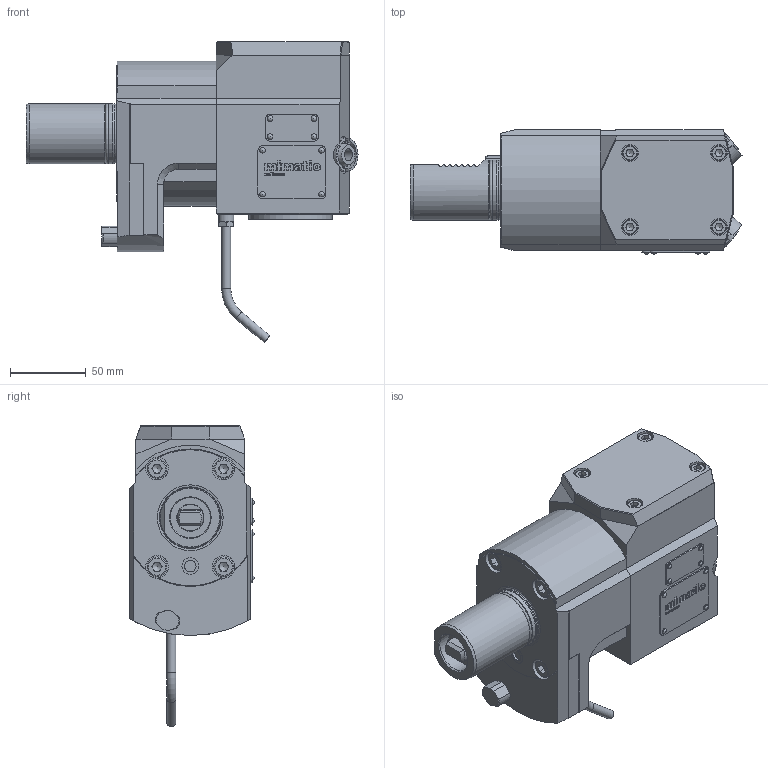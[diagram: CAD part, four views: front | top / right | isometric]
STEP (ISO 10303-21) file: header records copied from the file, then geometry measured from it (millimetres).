
FILE_DESCRIPTION(/* description */ (''),/* implementation_level */ '2;1');
FILE_NAME(/* name */ '196991',/* time_stamp */ '2020-10-23T11:31:54+02:00',/* author */ (''),/* organization */ (''),/* preprocessor_version */ 'ST-DEVELOPER v16.5',/* originating_system */ 'HiCAD 2017 2201.0 Build 268',/* authorisation */ '');
FILE_SCHEMA (('AUTOMOTIVE_DESIGN { 1 0 10303 214 1 1 1 1 }'));
Products named in the file (81): Root; Leeres Teil; ROTATIONSTEIL_0_150*; 195565_Spannsatz Berg C4 rot._350*; 777.18468.002.1.1; 765.18468.001.0.01; 763.18468.001.1; KLEMMUNG; DIN 472_Sicherungsring / Nut_430*; 00092920_120*; DIN 13-M24x1; 00093735_130*; 003_000X_210*; 002_000X_100*; DIN 6912 - M 6 x 12 - 8.8_Zylinderkopfschraube DIN 6912 - M 6 x 12 - 
8.8_401*; GEWINDE; BG_M10; 112485_Überwurfschraube_353*; 112384_Doppelkegelring D6_352*; TORUS_1_240*; 00011769_372*; 113692_Kerbnagel 2x4_380*; QUADER_0_370*; AGW; ROTATIONSTEIL_1_120*; DIN 13-M50x1; 173501_Kantsealring 7.65x1.68_351*; 113942_O-Ring 36x2_330*; DIN 912      (Innensechskant)_Zylinderschraube 8x70_400*; 001_000X_130*; DIN 13-M20x1; 00094252_140*
Assembly tree (80 placements, depth 7):
  Root
    Leeres Teil
      Leeres Teil
        Leeres Teil
        Leeres Teil
          ROTATIONSTEIL_0_150*
        195565_Spannsatz Berg C4 rot._350*
          777.18468.002.1.1
          765.18468.001.0.01
          777.18468.002.1.1
          765.18468.001.0.01
          765.18468.001.0.01
          765.18468.001.0.01
          765.18468.001.0.01
          765.18468.001.0.01
          763.18468.001.1
        KLEMMUNG
          DIN 472_Sicherungsring / Nut_430*
          00092920_120*
            DIN 13-M24x1
          00093735_130*
        KLEMMUNG
          DIN 472_Sicherungsring / Nut_430*
          00092920_120*
            DIN 13-M24x1
          00093735_130*
      Leeres Teil
        Leeres Teil
          003_000X_210*
          002_000X_100*
        Leeres Teil
          Leeres Teil
            DIN 6912 - M 6 x 12 - 8.8_Zylinderkopfschraube DIN 6912 - M 6 x 12 - 
8.8_401*
              GEWINDE
            DIN 6912 - M 6 x 12 - 8.8_Zylinderkopfschraube DIN 6912 - M 6 x 12 - 
8.8_401*
              GEWINDE
            DIN 6912 - M 6 x 12 - 8.8_Zylinderkopfschraube DIN 6912 - M 6 x 12 - 
8.8_401*
              GEWINDE
            DIN 6912 - M 6 x 12 - 8.8_Zylinderkopfschraube DIN 6912 - M 6 x 12 - 
8.8_401*
              GEWINDE
          Leeres Teil
          Leeres Teil
          BG_M10
            112485_Überwurfschraube_353*
              (unnamed)
            112384_Doppelkegelring D6_352*
            TORUS_1_240*
          Leeres Teil
            00011769_372*
            113692_Kerbnagel 2x4_380*
            113692_Kerbnagel 2x4_380*
            113692_Kerbnagel 2x4_380*
            113692_Kerbnagel 2x4_380*
          Leeres Teil
            113692_Kerbnagel 2x4_380*
            113692_Kerbnagel 2x4_380*
            113692_Kerbnagel 2x4_380*
            113692_Kerbnagel 2x4_380*
            QUADER_0_370*
      AGW
Bounding box: 219.69 x 82.35 x 199.17 mm (x, y, z)
Volume: 1334055.6 mm3; surface area: 156146.7 mm2
Topology: 44 solids, 44 shells, 1062 faces, 2678 edges, 1742 vertices
Faces by surface type: plane 609, cylinder 193, cone 107, torus 103, bspline 42, sphere 8
Full cylindrical faces by diameter (mm): 2 x8, 2.2 x8, 4 x2, 6 x3, 7.65 x1, 8.1 x2, 8.773 x2, 10 x5, 11 x4, 11.01 x1, 11.1 x1, 13 x4, 15 x6, 17.8 x2, 18 x2, 22.5 x2, 25 x2, 26.5 x1, 31.5 x1, 36.5 x1, 39.4 x1, 40 x3, 55 x2
Entity records: 64666 total; most frequent: CARTESIAN_POINT 13311, DIRECTION 5578, PRESENTATION_STYLE_ASSIGNMENT 5059, ORIENTED_EDGE 5022, OVER_RIDING_STYLED_ITEM 5015, DRAUGHTING_PRE_DEFINED_CURVE_FONT 5014, CURVE_STYLE 5014, COLOUR_RGB 4974
